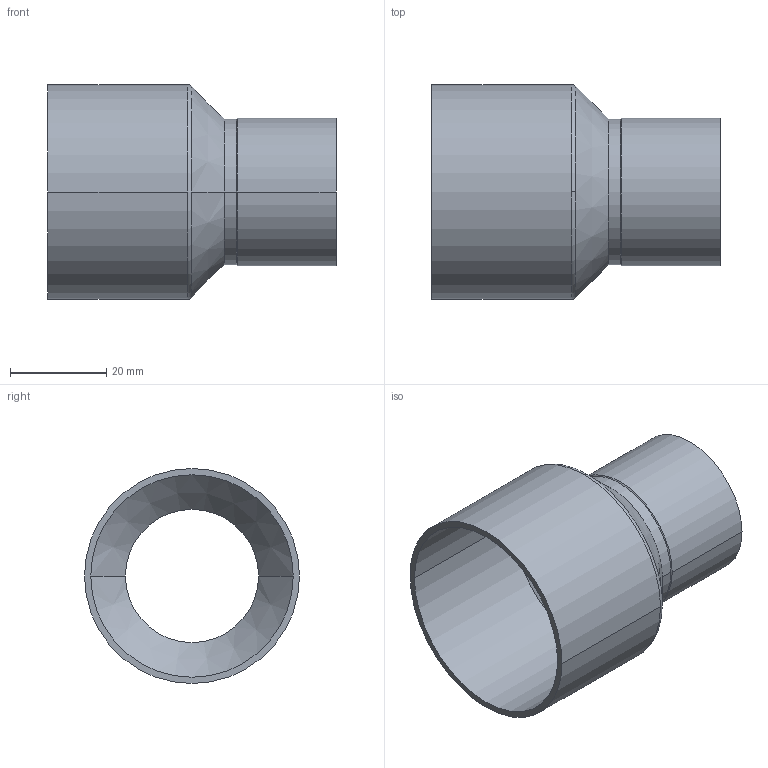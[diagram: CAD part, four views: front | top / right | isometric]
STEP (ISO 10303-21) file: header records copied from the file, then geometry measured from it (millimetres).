
FILE_DESCRIPTION((''),'2;1');
FILE_NAME('G:\Technics\CAD\Bauteile\Serie 15240\152404228.stp','2005-10-21T12:51:14',('boden'),(''),'Autodesk Inventor 8','Autodesk Inventor 8','');
FILE_SCHEMA(('AUTOMOTIVE_DESIGN { 1 0 10303 214 1 1 1 1 }'));
Length unit declared in the file: millimetre
Products named in the file (1): 152404228
Bounding box: 60 x 44.75 x 44.75 mm (x, y, z)
Volume: 9529.8 mm3; surface area: 14958.6 mm2
Topology: 1 solids, 1 shells, 24 faces, 52 edges, 30 vertices
Faces by surface type: cylinder 12, cone 8, torus 2, plane 2
Entity records: 683 total; most frequent: DIRECTION 134, CARTESIAN_POINT 107, ORIENTED_EDGE 104, AXIS2_PLACEMENT_3D 57, EDGE_CURVE 52, CIRCLE 32, VERTEX_POINT 30, EDGE_LOOP 26
